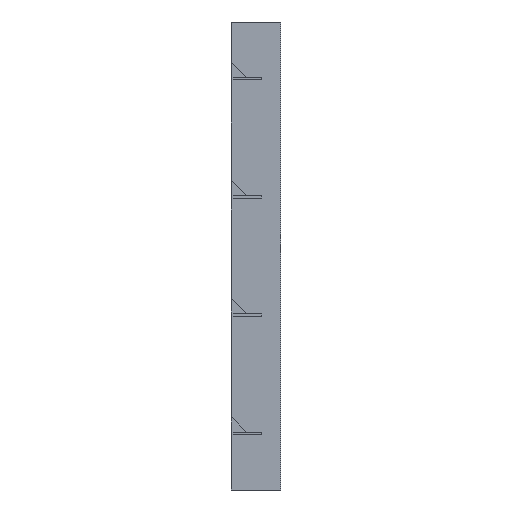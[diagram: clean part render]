
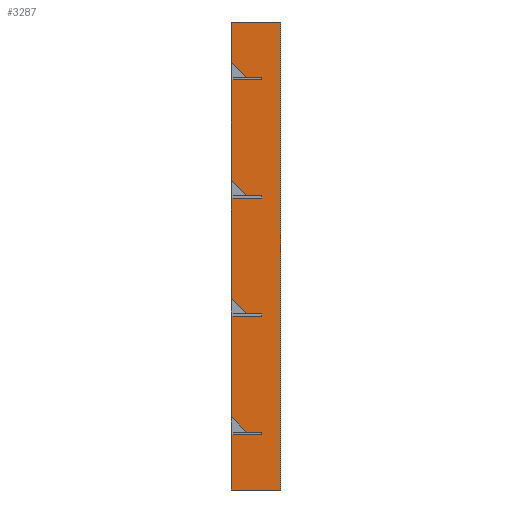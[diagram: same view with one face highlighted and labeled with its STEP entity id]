
A CAD part, left-side view. The second image highlights one B-rep face of the part: STEP entity #3287.
In plain terms, the highlighted planar face has unit normal (-1, 0, 0) as drawn and (0, 0, 1) by its records, which use the part's own axes.
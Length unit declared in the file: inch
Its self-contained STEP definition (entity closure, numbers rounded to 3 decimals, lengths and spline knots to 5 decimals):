
#211=FACE_OUTER_BOUND('',#375,.T.);
#375=EDGE_LOOP('',(#2763,#2764,#2765,#2766,#2767,#2768,#2769,#2770,#2771,
#2772,#2773,#2774,#2775,#2776,#2777,#2778,#2779,#2780,#2781,#2782,#2783,
#2784,#2785,#2786,#2787,#2788,#2789,#2790,#2791,#2792,#2793,#2794));
#721=LINE('',#5006,#1177);
#725=LINE('',#5013,#1181);
#728=LINE('',#5019,#1184);
#731=LINE('',#5027,#1187);
#735=LINE('',#5034,#1191);
#737=LINE('',#5037,#1193);
#740=LINE('',#5045,#1196);
#744=LINE('',#5052,#1200);
#747=LINE('',#5058,#1203);
#750=LINE('',#5066,#1206);
#754=LINE('',#5073,#1210);
#756=LINE('',#5076,#1212);
#759=LINE('',#5084,#1215);
#763=LINE('',#5091,#1219);
#766=LINE('',#5097,#1222);
#769=LINE('',#5105,#1225);
#773=LINE('',#5112,#1229);
#775=LINE('',#5115,#1231);
#776=LINE('',#5117,#1232);
#777=LINE('',#5118,#1233);
#778=LINE('',#5120,#1234);
#779=LINE('',#5122,#1235);
#780=LINE('',#5124,#1236);
#781=LINE('',#5126,#1237);
#782=LINE('',#5128,#1238);
#783=LINE('',#5130,#1239);
#784=LINE('',#5132,#1240);
#785=LINE('',#5134,#1241);
#786=LINE('',#5136,#1242);
#787=LINE('',#5138,#1243);
#788=LINE('',#5140,#1244);
#789=LINE('',#5141,#1245);
#1177=VECTOR('',#4086,0.3937);
#1181=VECTOR('',#4092,0.3937);
#1184=VECTOR('',#4097,0.3937);
#1187=VECTOR('',#4102,0.3937);
#1191=VECTOR('',#4108,0.3937);
#1193=VECTOR('',#4112,0.3937);
#1196=VECTOR('',#4117,0.3937);
#1200=VECTOR('',#4123,0.3937);
#1203=VECTOR('',#4128,0.3937);
#1206=VECTOR('',#4133,0.3937);
#1210=VECTOR('',#4139,0.3937);
#1212=VECTOR('',#4143,0.3937);
#1215=VECTOR('',#4148,0.3937);
#1219=VECTOR('',#4154,0.3937);
#1222=VECTOR('',#4159,0.3937);
#1225=VECTOR('',#4164,0.3937);
#1229=VECTOR('',#4170,0.3937);
#1231=VECTOR('',#4174,0.3937);
#1232=VECTOR('',#4177,0.3937);
#1233=VECTOR('',#4178,0.3937);
#1234=VECTOR('',#4179,0.3937);
#1235=VECTOR('',#4180,0.3937);
#1236=VECTOR('',#4181,0.3937);
#1237=VECTOR('',#4182,0.3937);
#1238=VECTOR('',#4183,0.3937);
#1239=VECTOR('',#4184,0.3937);
#1240=VECTOR('',#4185,0.3937);
#1241=VECTOR('',#4186,0.3937);
#1242=VECTOR('',#4187,0.3937);
#1243=VECTOR('',#4188,0.3937);
#1244=VECTOR('',#4189,0.3937);
#1245=VECTOR('',#4190,0.3937);
#1533=VERTEX_POINT('',#5003);
#1534=VERTEX_POINT('',#5005);
#1536=VERTEX_POINT('',#5011);
#1538=VERTEX_POINT('',#5017);
#1541=VERTEX_POINT('',#5024);
#1542=VERTEX_POINT('',#5026);
#1544=VERTEX_POINT('',#5032);
#1547=VERTEX_POINT('',#5042);
#1548=VERTEX_POINT('',#5044);
#1550=VERTEX_POINT('',#5050);
#1552=VERTEX_POINT('',#5056);
#1555=VERTEX_POINT('',#5063);
#1556=VERTEX_POINT('',#5065);
#1558=VERTEX_POINT('',#5071);
#1561=VERTEX_POINT('',#5081);
#1562=VERTEX_POINT('',#5083);
#1564=VERTEX_POINT('',#5089);
#1566=VERTEX_POINT('',#5095);
#1569=VERTEX_POINT('',#5102);
#1570=VERTEX_POINT('',#5104);
#1572=VERTEX_POINT('',#5110);
#1573=VERTEX_POINT('',#5119);
#1574=VERTEX_POINT('',#5121);
#1575=VERTEX_POINT('',#5123);
#1576=VERTEX_POINT('',#5125);
#1577=VERTEX_POINT('',#5127);
#1578=VERTEX_POINT('',#5129);
#1579=VERTEX_POINT('',#5131);
#1580=VERTEX_POINT('',#5133);
#1581=VERTEX_POINT('',#5135);
#1582=VERTEX_POINT('',#5137);
#1583=VERTEX_POINT('',#5139);
#1937=EDGE_CURVE('',#1534,#1533,#721,.T.);
#1941=EDGE_CURVE('',#1533,#1536,#725,.T.);
#1944=EDGE_CURVE('',#1536,#1538,#728,.T.);
#1947=EDGE_CURVE('',#1542,#1541,#731,.T.);
#1951=EDGE_CURVE('',#1541,#1544,#735,.T.);
#1953=EDGE_CURVE('',#1544,#1534,#737,.T.);
#1956=EDGE_CURVE('',#1548,#1547,#740,.T.);
#1960=EDGE_CURVE('',#1547,#1550,#744,.T.);
#1963=EDGE_CURVE('',#1550,#1552,#747,.T.);
#1966=EDGE_CURVE('',#1556,#1555,#750,.T.);
#1970=EDGE_CURVE('',#1555,#1558,#754,.T.);
#1972=EDGE_CURVE('',#1558,#1548,#756,.T.);
#1975=EDGE_CURVE('',#1562,#1561,#759,.T.);
#1979=EDGE_CURVE('',#1561,#1564,#763,.T.);
#1982=EDGE_CURVE('',#1564,#1566,#766,.T.);
#1985=EDGE_CURVE('',#1570,#1569,#769,.T.);
#1989=EDGE_CURVE('',#1569,#1572,#773,.T.);
#1991=EDGE_CURVE('',#1572,#1562,#775,.T.);
#1992=EDGE_CURVE('',#1538,#1556,#776,.T.);
#1993=EDGE_CURVE('',#1552,#1570,#777,.T.);
#1994=EDGE_CURVE('',#1566,#1573,#778,.T.);
#1995=EDGE_CURVE('',#1573,#1574,#779,.T.);
#1996=EDGE_CURVE('',#1574,#1575,#780,.T.);
#1997=EDGE_CURVE('',#1575,#1576,#781,.T.);
#1998=EDGE_CURVE('',#1576,#1577,#782,.T.);
#1999=EDGE_CURVE('',#1577,#1578,#783,.T.);
#2000=EDGE_CURVE('',#1578,#1579,#784,.T.);
#2001=EDGE_CURVE('',#1579,#1580,#785,.T.);
#2002=EDGE_CURVE('',#1580,#1581,#786,.T.);
#2003=EDGE_CURVE('',#1581,#1582,#787,.T.);
#2004=EDGE_CURVE('',#1582,#1583,#788,.T.);
#2005=EDGE_CURVE('',#1583,#1542,#789,.T.);
#2763=ORIENTED_EDGE('',*,*,#1947,.T.);
#2764=ORIENTED_EDGE('',*,*,#1951,.T.);
#2765=ORIENTED_EDGE('',*,*,#1953,.T.);
#2766=ORIENTED_EDGE('',*,*,#1937,.T.);
#2767=ORIENTED_EDGE('',*,*,#1941,.T.);
#2768=ORIENTED_EDGE('',*,*,#1944,.T.);
#2769=ORIENTED_EDGE('',*,*,#1992,.T.);
#2770=ORIENTED_EDGE('',*,*,#1966,.T.);
#2771=ORIENTED_EDGE('',*,*,#1970,.T.);
#2772=ORIENTED_EDGE('',*,*,#1972,.T.);
#2773=ORIENTED_EDGE('',*,*,#1956,.T.);
#2774=ORIENTED_EDGE('',*,*,#1960,.T.);
#2775=ORIENTED_EDGE('',*,*,#1963,.T.);
#2776=ORIENTED_EDGE('',*,*,#1993,.T.);
#2777=ORIENTED_EDGE('',*,*,#1985,.T.);
#2778=ORIENTED_EDGE('',*,*,#1989,.T.);
#2779=ORIENTED_EDGE('',*,*,#1991,.T.);
#2780=ORIENTED_EDGE('',*,*,#1975,.T.);
#2781=ORIENTED_EDGE('',*,*,#1979,.T.);
#2782=ORIENTED_EDGE('',*,*,#1982,.T.);
#2783=ORIENTED_EDGE('',*,*,#1994,.T.);
#2784=ORIENTED_EDGE('',*,*,#1995,.T.);
#2785=ORIENTED_EDGE('',*,*,#1996,.T.);
#2786=ORIENTED_EDGE('',*,*,#1997,.T.);
#2787=ORIENTED_EDGE('',*,*,#1998,.T.);
#2788=ORIENTED_EDGE('',*,*,#1999,.T.);
#2789=ORIENTED_EDGE('',*,*,#2000,.T.);
#2790=ORIENTED_EDGE('',*,*,#2001,.T.);
#2791=ORIENTED_EDGE('',*,*,#2002,.T.);
#2792=ORIENTED_EDGE('',*,*,#2003,.T.);
#2793=ORIENTED_EDGE('',*,*,#2004,.T.);
#2794=ORIENTED_EDGE('',*,*,#2005,.T.);
#3123=PLANE('',#3512);
#3287=ADVANCED_FACE('',(#211),#3123,.T.);
#3512=AXIS2_PLACEMENT_3D('',#5116,#4175,#4176);
#4086=DIRECTION('',(0.,1.,0.));
#4092=DIRECTION('',(1.,0.,0.));
#4097=DIRECTION('',(0.,1.,0.));
#4102=DIRECTION('',(-0.703,-0.711,0.));
#4108=DIRECTION('',(0.,-1.,0.));
#4112=DIRECTION('',(-1.,0.,0.));
#4117=DIRECTION('',(0.,1.,0.));
#4123=DIRECTION('',(1.,0.,0.));
#4128=DIRECTION('',(0.,1.,0.));
#4133=DIRECTION('',(-0.703,-0.711,0.));
#4139=DIRECTION('',(0.,-1.,0.));
#4143=DIRECTION('',(-1.,0.,0.));
#4148=DIRECTION('',(0.,1.,0.));
#4154=DIRECTION('',(1.,0.,0.));
#4159=DIRECTION('',(0.,1.,0.));
#4164=DIRECTION('',(-0.703,-0.711,0.));
#4170=DIRECTION('',(0.,-1.,0.));
#4174=DIRECTION('',(-1.,0.,0.));
#4175=DIRECTION('center_axis',(0.,0.,1.));
#4176=DIRECTION('ref_axis',(1.,0.,0.));
#4177=DIRECTION('',(-1.,0.,0.));
#4178=DIRECTION('',(-1.,0.,0.));
#4179=DIRECTION('',(-1.,0.,0.));
#4180=DIRECTION('',(-0.703,-0.711,0.));
#4181=DIRECTION('',(0.,-1.,0.));
#4182=DIRECTION('',(-1.,0.,0.));
#4183=DIRECTION('',(0.,1.,0.));
#4184=DIRECTION('',(1.,0.,0.));
#4185=DIRECTION('',(0.,1.,0.));
#4186=DIRECTION('',(-1.,0.,0.));
#4187=DIRECTION('',(0.,-1.,0.));
#4188=DIRECTION('',(1.,0.,0.));
#4189=DIRECTION('',(0.,1.,0.));
#4190=DIRECTION('',(-1.,0.,0.));
#5003=CARTESIAN_POINT('',(83.25,9.375,0.48));
#5005=CARTESIAN_POINT('',(83.25,4.375,0.48));
#5006=CARTESIAN_POINT('',(83.25,7.1875,0.48));
#5011=CARTESIAN_POINT('',(83.495,9.375,0.48));
#5013=CARTESIAN_POINT('',(65.4975,9.375,0.48));
#5017=CARTESIAN_POINT('',(83.495,10.,0.48));
#5019=CARTESIAN_POINT('',(83.495,7.5,0.48));
#5024=CARTESIAN_POINT('',(83.75,6.875,0.48));
#5026=CARTESIAN_POINT('',(86.8409,10.,0.48));
#5027=CARTESIAN_POINT('',(74.31821,-2.66085,0.48));
#5032=CARTESIAN_POINT('',(83.75,4.375,0.48));
#5034=CARTESIAN_POINT('',(83.75,4.6875,0.48));
#5037=CARTESIAN_POINT('',(65.375,4.375,0.48));
#5042=CARTESIAN_POINT('',(59.25,9.375,0.48));
#5044=CARTESIAN_POINT('',(59.25,4.375,0.48));
#5045=CARTESIAN_POINT('',(59.25,7.1875,0.48));
#5050=CARTESIAN_POINT('',(59.495,9.375,0.48));
#5052=CARTESIAN_POINT('',(53.4975,9.375,0.48));
#5056=CARTESIAN_POINT('',(59.495,10.,0.48));
#5058=CARTESIAN_POINT('',(59.495,7.5,0.48));
#5063=CARTESIAN_POINT('',(59.75,6.875,0.48));
#5065=CARTESIAN_POINT('',(62.8409,10.,0.48));
#5066=CARTESIAN_POINT('',(56.25238,3.33879,0.48));
#5071=CARTESIAN_POINT('',(59.75,4.375,0.48));
#5073=CARTESIAN_POINT('',(59.75,4.6875,0.48));
#5076=CARTESIAN_POINT('',(53.375,4.375,0.48));
#5081=CARTESIAN_POINT('',(35.25,9.375,0.48));
#5083=CARTESIAN_POINT('',(35.25,4.375,0.48));
#5084=CARTESIAN_POINT('',(35.25,7.1875,0.48));
#5089=CARTESIAN_POINT('',(35.495,9.375,0.48));
#5091=CARTESIAN_POINT('',(41.4975,9.375,0.48));
#5095=CARTESIAN_POINT('',(35.495,10.,0.48));
#5097=CARTESIAN_POINT('',(35.495,7.5,0.48));
#5102=CARTESIAN_POINT('',(35.75,6.875,0.48));
#5104=CARTESIAN_POINT('',(38.8409,10.,0.48));
#5105=CARTESIAN_POINT('',(38.18655,9.33843,0.48));
#5110=CARTESIAN_POINT('',(35.75,4.375,0.48));
#5112=CARTESIAN_POINT('',(35.75,4.6875,0.48));
#5115=CARTESIAN_POINT('',(41.375,4.375,0.48));
#5116=CARTESIAN_POINT('Origin',(47.5,5.,0.48));
#5117=CARTESIAN_POINT('',(95.,10.,0.48));
#5118=CARTESIAN_POINT('',(95.,10.,0.48));
#5119=CARTESIAN_POINT('',(14.8409,10.,0.48));
#5120=CARTESIAN_POINT('',(95.,10.,0.48));
#5121=CARTESIAN_POINT('',(11.75,6.875,0.48));
#5122=CARTESIAN_POINT('',(20.12072,15.33807,0.48));
#5123=CARTESIAN_POINT('',(11.75,4.375,0.48));
#5124=CARTESIAN_POINT('',(11.75,4.6875,0.48));
#5125=CARTESIAN_POINT('',(11.25,4.375,0.48));
#5126=CARTESIAN_POINT('',(29.375,4.375,0.48));
#5127=CARTESIAN_POINT('',(11.25,9.375,0.48));
#5128=CARTESIAN_POINT('',(11.25,7.1875,0.48));
#5129=CARTESIAN_POINT('',(11.495,9.375,0.48));
#5130=CARTESIAN_POINT('',(29.4975,9.375,0.48));
#5131=CARTESIAN_POINT('',(11.495,10.,0.48));
#5132=CARTESIAN_POINT('',(11.495,7.5,0.48));
#5133=CARTESIAN_POINT('',(0.,10.,0.48));
#5134=CARTESIAN_POINT('',(95.,10.,0.48));
#5135=CARTESIAN_POINT('',(0.,0.,0.48));
#5136=CARTESIAN_POINT('',(0.,10.,0.48));
#5137=CARTESIAN_POINT('',(95.,0.,0.48));
#5138=CARTESIAN_POINT('',(0.,0.,0.48));
#5139=CARTESIAN_POINT('',(95.,10.,0.48));
#5140=CARTESIAN_POINT('',(95.,0.,0.48));
#5141=CARTESIAN_POINT('',(95.,10.,0.48));
